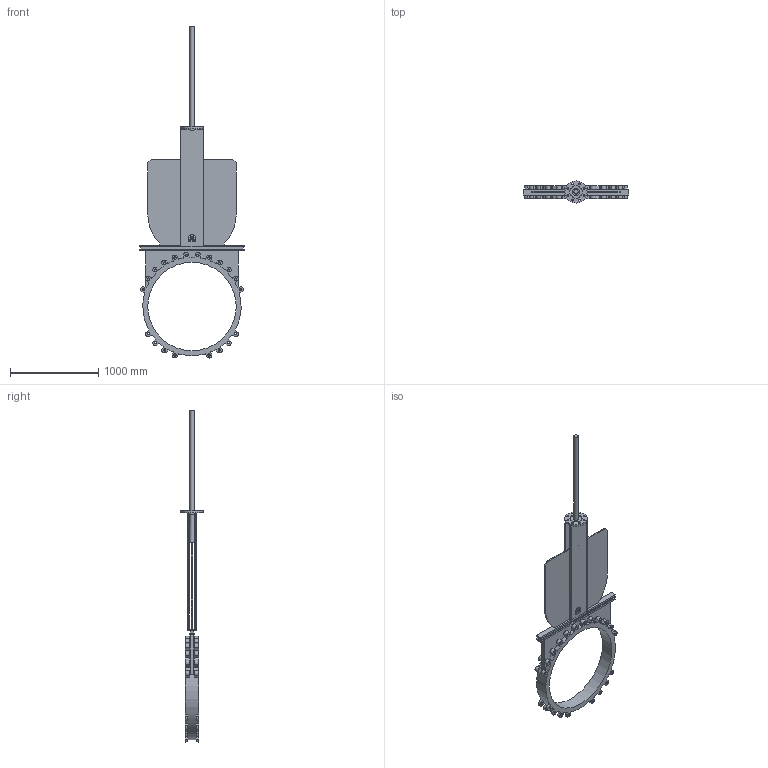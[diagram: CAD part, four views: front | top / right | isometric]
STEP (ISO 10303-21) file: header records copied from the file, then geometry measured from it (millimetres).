
FILE_DESCRIPTION(('STEP AP203'), '1');
FILE_NAME('K51GVA_DN1000', '', ('UNSPECIFIED'), ('UNSPECIFIED'), 'ASCON STEP Converter 1.6', 'ASCON Math Kernel', '');
FILE_SCHEMA(('CONFIG_CONTROL_DESIGN'));
Length unit declared in the file: millimetre
Bounding box: 1190 x 250 x 3755.23 mm (x, y, z)
Volume: 63370439.5 mm3; surface area: 6376848.9 mm2
Topology: 1 solids, 1 shells, 408 faces, 1165 edges, 767 vertices
Faces by surface type: plane 199, cylinder 184, cone 25
Full cylindrical faces by diameter (mm): 18 x8, 26.211 x16, 29.211 x24, 52 x2, 80 x1, 140 x1, 250 x1, 1000 x1, 1112 x1
Entity records: 16236 total; most frequent: DIRECTION 2342, CARTESIAN_POINT 2213, ORIENTED_EDGE 2122, EDGE_CURVE 1061, AXIS2_PLACEMENT_3D 872, VERTEX_POINT 743, LINE 598, VECTOR 598
